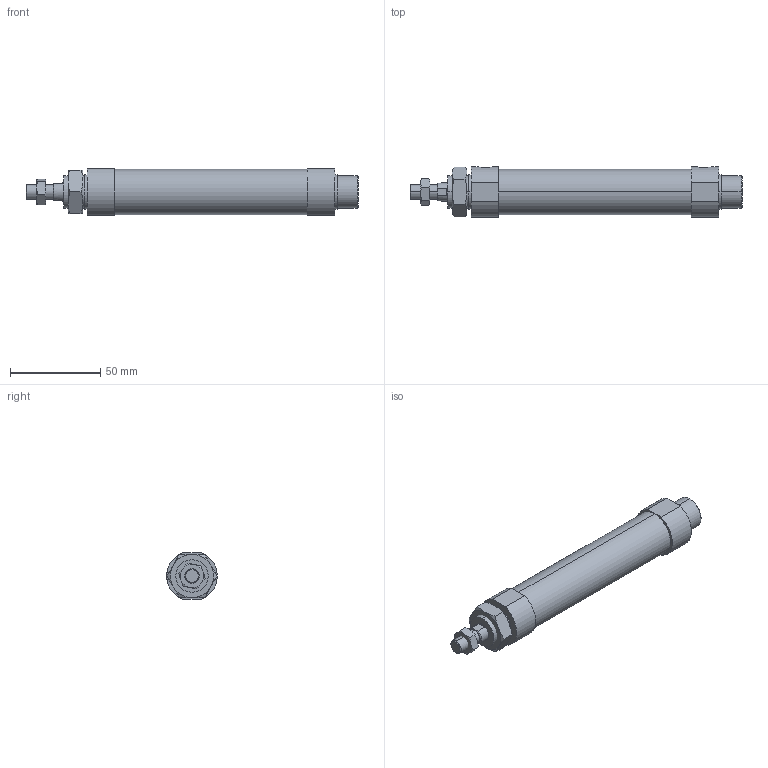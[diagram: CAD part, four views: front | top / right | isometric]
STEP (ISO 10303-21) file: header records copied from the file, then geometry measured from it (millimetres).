
FILE_DESCRIPTION (( 'STEP AP203' ), '1' );
FILE_NAME ('J#2-20-75-N.STEP', '2016-03-08T07:00:16', ( '' ), ( '' ), 'SwSTEP 2.0', 'SolidWorks 2014', '' );
FILE_SCHEMA (( 'CONFIG_CONTROL_DESIGN' ));
Length unit declared in the file: millimetre
Products named in the file (4): J#2-20-75; J#2-20-75-N
Assembly tree (3 placements, depth 2):
  J#2-20-75-N
    J#2-20-75
    (unnamed)
    (unnamed)
Bounding box: 184 x 28 x 26 mm (x, y, z)
Volume: 79752.3 mm3; surface area: 17332.4 mm2
Topology: 3 solids, 3 shells, 92 faces, 198 edges, 122 vertices
Faces by surface type: plane 36, cylinder 26, torus 24, cone 6
Entity records: 3250 total; most frequent: CARTESIAN_POINT 874, DIRECTION 420, ORIENTED_EDGE 396, EDGE_CURVE 198, AXIS2_PLACEMENT_3D 180, VERTEX_POINT 122, EDGE_LOOP 106, FACE_OUTER_BOUND 92
